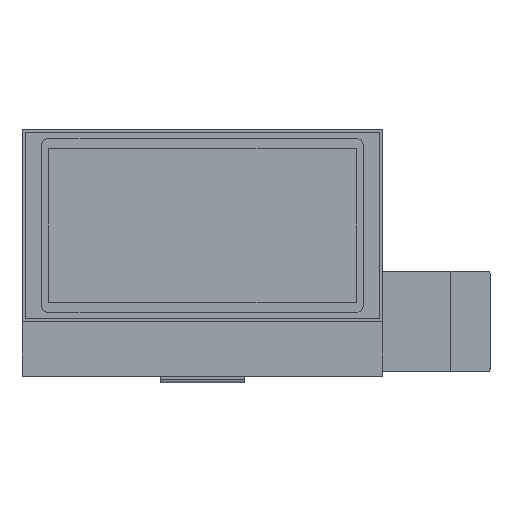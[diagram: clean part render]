
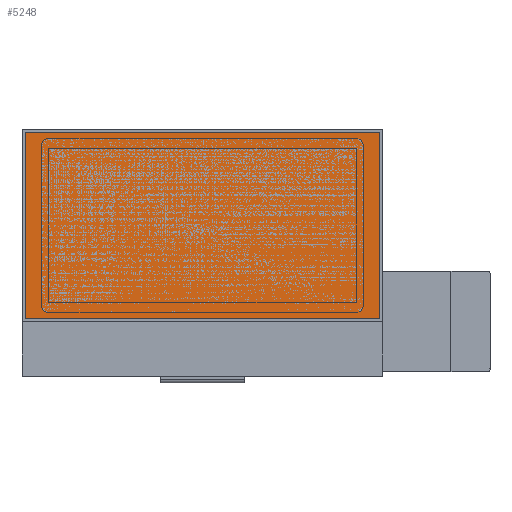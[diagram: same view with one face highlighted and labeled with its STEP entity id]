
A CAD part, top view. The second image highlights one B-rep face of the part: STEP entity #5248.
In plain terms, the highlighted planar face has unit normal (0, 0, 1).
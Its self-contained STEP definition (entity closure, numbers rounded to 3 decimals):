
#57 = ORIENTED_EDGE ( 'NONE', *, *, #5451, .T. ) ;
#186 = LINE ( 'NONE', #1040, #1189 ) ;
#304 = DIRECTION ( 'NONE',  ( 1., 0., 0. ) ) ;
#477 = DIRECTION ( 'NONE',  ( 0., -1., 0. ) ) ;
#1039 = ORIENTED_EDGE ( 'NONE', *, *, #5409, .T. ) ;
#1040 = CARTESIAN_POINT ( 'NONE',  ( 27.25, 18.5, 1.7 ) ) ;
#1189 = VECTOR ( 'NONE', #3448, 1000. ) ;
#1293 = CARTESIAN_POINT ( 'NONE',  ( -27.25, -10.17, 1.7 ) ) ;
#1336 = VECTOR ( 'NONE', #477, 1000. ) ;
#1388 = ORIENTED_EDGE ( 'NONE', *, *, #2233, .T. ) ;
#1449 = VECTOR ( 'NONE', #2240, 1000. ) ;
#1458 = VECTOR ( 'NONE', #1849, 1000. ) ;
#1480 = ORIENTED_EDGE ( 'NONE', *, *, #2614, .T. ) ;
#1549 = FACE_OUTER_BOUND ( 'NONE', #4333, .T. ) ;
#1849 = DIRECTION ( 'NONE',  ( 1., 0., 0. ) ) ;
#2233 = EDGE_CURVE ( 'NONE', #5478, #3866, #2472, .T. ) ;
#2240 = DIRECTION ( 'NONE',  ( 0., 1., 0. ) ) ;
#2462 = CARTESIAN_POINT ( 'NONE',  ( 0., 0., 1.7 ) ) ;
#2472 = LINE ( 'NONE', #4492, #1458 ) ;
#2476 = VERTEX_POINT ( 'NONE', #2955 ) ;
#2501 = LINE ( 'NONE', #1293, #1336 ) ;
#2614 = EDGE_CURVE ( 'NONE', #3866, #3294, #2742, .T. ) ;
#2666 = CARTESIAN_POINT ( 'NONE',  ( 27.25, 18.5, 1.7 ) ) ;
#2742 = LINE ( 'NONE', #2666, #1449 ) ;
#2918 = DIRECTION ( 'NONE',  ( 0., 0., 1. ) ) ;
#2955 = CARTESIAN_POINT ( 'NONE',  ( -27.25, 18.5, 1.7 ) ) ;
#3294 = VERTEX_POINT ( 'NONE', #3669 ) ;
#3448 = DIRECTION ( 'NONE',  ( -1., 0., 0. ) ) ;
#3669 = CARTESIAN_POINT ( 'NONE',  ( 27.25, 18.5, 1.7 ) ) ;
#3700 = AXIS2_PLACEMENT_3D ( 'NONE', #2462, #2918, #304 ) ;
#3860 = CARTESIAN_POINT ( 'NONE',  ( -27.25, -10.17, 1.7 ) ) ;
#3866 = VERTEX_POINT ( 'NONE', #5494 ) ;
#4064 = PLANE ( 'NONE',  #3700 ) ;
#4333 = EDGE_LOOP ( 'NONE', ( #1039, #1388, #1480, #57 ) ) ;
#4492 = CARTESIAN_POINT ( 'NONE',  ( 27.25, -10.17, 1.7 ) ) ;
#5248 = ADVANCED_FACE ( 'NONE', ( #1549 ), #4064, .T. ) ;
#5409 = EDGE_CURVE ( 'NONE', #2476, #5478, #2501, .T. ) ;
#5451 = EDGE_CURVE ( 'NONE', #3294, #2476, #186, .T. ) ;
#5478 = VERTEX_POINT ( 'NONE', #3860 ) ;
#5494 = CARTESIAN_POINT ( 'NONE',  ( 27.25, -10.17, 1.7 ) ) ;
